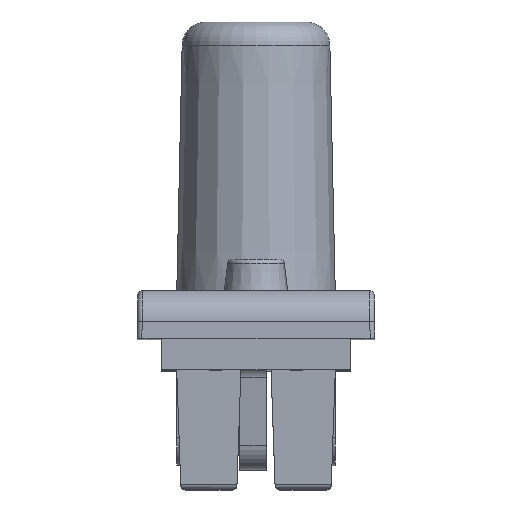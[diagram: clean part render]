
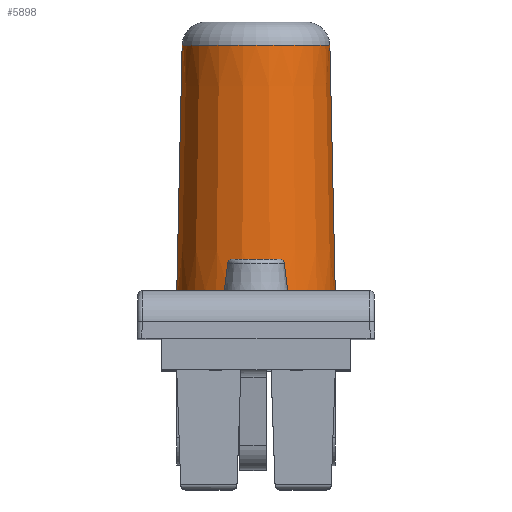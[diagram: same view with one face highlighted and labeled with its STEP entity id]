
A CAD part, top view. The second image highlights one B-rep face of the part: STEP entity #5898.
In plain terms, the highlighted conical face has half-angle 1.25 degrees and reference radius 4.83 mm.
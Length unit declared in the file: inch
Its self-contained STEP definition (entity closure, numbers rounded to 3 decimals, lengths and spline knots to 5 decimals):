
#486=CARTESIAN_POINT('',(0.29528,0.49213,
-1.39764));
#487=DIRECTION('',(0.,1.,0.));
#488=DIRECTION('',(-1.,0.,0.));
#489=AXIS2_PLACEMENT_3D('',#486,#487,#488);
#590=CARTESIAN_POINT('',(0.29528,1.10365,-1.39764));
#591=DIRECTION('',(0.,-1.,0.));
#592=DIRECTION('',(1.,0.,0.));
#593=AXIS2_PLACEMENT_3D('',#590,#591,#592);
#620=DIRECTION('',(-0.022,-1.,0.));
#621=VECTOR('',#620,0.61167);
#622=CARTESIAN_POINT('',(0.11177,1.10365,-1.39764));
#623=LINE('',#622,#621);
#624=DIRECTION('',(-0.022,1.,0.));
#625=VECTOR('',#624,0.61167);
#626=CARTESIAN_POINT('',(0.49213,0.49213,
-1.39764));
#627=LINE('',#626,#625);
#4323=CARTESIAN_POINT('',(0.09843,0.49213,
-1.39764));
#4324=CARTESIAN_POINT('',(0.49213,0.49213,
-1.39764));
#4325=VERTEX_POINT('',#4323);
#4326=VERTEX_POINT('',#4324);
#4335=CARTESIAN_POINT('',(0.47878,1.10365,
-1.39764));
#4336=CARTESIAN_POINT('',(0.11177,1.10365,
-1.39764));
#4337=VERTEX_POINT('',#4335);
#4338=VERTEX_POINT('',#4336);
#5884=CARTESIAN_POINT('',(0.29528,0.79789,
-1.39764));
#5885=DIRECTION('',(0.,-1.,0.));
#5886=DIRECTION('',(-1.,0.,0.));
#5887=AXIS2_PLACEMENT_3D('',#5884,#5885,#5886);
#5888=CONICAL_SURFACE('',#5887,0.19018,1.25);
#5890=ORIENTED_EDGE('',*,*,#5889,.F.);
#5892=ORIENTED_EDGE('',*,*,#5891,.F.);
#5893=ORIENTED_EDGE('',*,*,#5733,.F.);
#5895=ORIENTED_EDGE('',*,*,#5894,.F.);
#5896=EDGE_LOOP('',(#5890,#5892,#5893,#5895));
#5897=FACE_OUTER_BOUND('',#5896,.F.);
#5898=ADVANCED_FACE('',(#5897),#5888,.T.);
#490=CIRCLE('',#489,0.19685);
#594=CIRCLE('',#593,0.18351);
#5733=EDGE_CURVE('',#4325,#4326,#490,.T.);
#5889=EDGE_CURVE('',#4337,#4338,#594,.T.);
#5891=EDGE_CURVE('',#4326,#4337,#627,.T.);
#5894=EDGE_CURVE('',#4338,#4325,#623,.T.);
